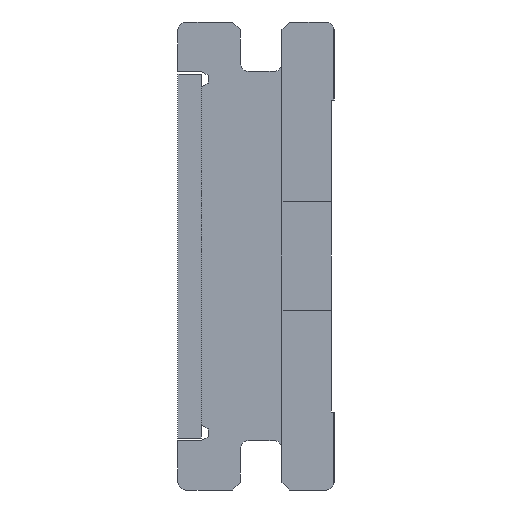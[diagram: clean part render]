
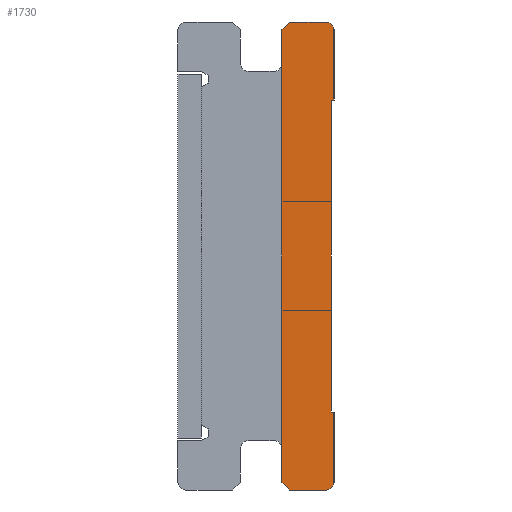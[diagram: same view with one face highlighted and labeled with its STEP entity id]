
A CAD part, left-side view. The second image highlights one B-rep face of the part: STEP entity #1730.
In plain terms, the highlighted planar face has unit normal (-1, 0, 0).
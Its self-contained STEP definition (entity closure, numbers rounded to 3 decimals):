
#30 = LINE ( 'NONE', #2296, #2185 ) ;
#54 = CARTESIAN_POINT ( 'NONE',  ( 0., 0.3, -0.3 ) ) ;
#80 = DIRECTION ( 'NONE',  ( 0., 0., -1. ) ) ;
#233 = DIRECTION ( 'NONE',  ( 0., -1., 0. ) ) ;
#237 = VECTOR ( 'NONE', #400, 1000. ) ;
#262 = DIRECTION ( 'NONE',  ( 0., 1., 0. ) ) ;
#268 = CARTESIAN_POINT ( 'NONE',  ( 0., 0.3, -17.7 ) ) ;
#278 = LINE ( 'NONE', #2367, #1663 ) ;
#342 = CARTESIAN_POINT ( 'NONE',  ( 0., 0.3, -18. ) ) ;
#370 = CARTESIAN_POINT ( 'NONE',  ( 0., 0., -15. ) ) ;
#380 = EDGE_CURVE ( 'NONE', #2245, #1203, #500, .T. ) ;
#400 = DIRECTION ( 'NONE',  ( 0., -1., 0. ) ) ;
#407 = VECTOR ( 'NONE', #233, 1000. ) ;
#454 = VECTOR ( 'NONE', #2191, 1000. ) ;
#459 = DIRECTION ( 'NONE',  ( 1., 0., 0. ) ) ;
#497 = LINE ( 'NONE', #2084, #1597 ) ;
#500 = LINE ( 'NONE', #2380, #2376 ) ;
#526 = CARTESIAN_POINT ( 'NONE',  ( 0., 0., -3. ) ) ;
#541 = CARTESIAN_POINT ( 'NONE',  ( 0., 0.1, -3. ) ) ;
#543 = DIRECTION ( 'NONE',  ( 0., 1., 0. ) ) ;
#548 = CARTESIAN_POINT ( 'NONE',  ( 0., 0., -15. ) ) ;
#601 = CARTESIAN_POINT ( 'NONE',  ( 0., 5.1, -15.8 ) ) ;
#669 = CARTESIAN_POINT ( 'NONE',  ( 0., 1.7, 0. ) ) ;
#674 = EDGE_CURVE ( 'NONE', #697, #956, #2047, .T. ) ;
#679 = ORIENTED_EDGE ( 'NONE', *, *, #1628, .F. ) ;
#694 = ORIENTED_EDGE ( 'NONE', *, *, #2004, .F. ) ;
#697 = VERTEX_POINT ( 'NONE', #370 ) ;
#750 = EDGE_CURVE ( 'NONE', #956, #908, #1552, .T. ) ;
#752 = FACE_OUTER_BOUND ( 'NONE', #2284, .T. ) ;
#782 = CARTESIAN_POINT ( 'NONE',  ( 0., 2., -17.7 ) ) ;
#811 = LINE ( 'NONE', #1576, #1492 ) ;
#908 = VERTEX_POINT ( 'NONE', #342 ) ;
#921 = CARTESIAN_POINT ( 'NONE',  ( 0., 1.7, -18. ) ) ;
#939 = AXIS2_PLACEMENT_3D ( 'NONE', #54, #2323, #1325 ) ;
#956 = VERTEX_POINT ( 'NONE', #1327 ) ;
#957 = LINE ( 'NONE', #2112, #407 ) ;
#972 = VERTEX_POINT ( 'NONE', #2082 ) ;
#1078 = CIRCLE ( 'NONE', #939, 0.3 ) ;
#1140 = CARTESIAN_POINT ( 'NONE',  ( 0., 0., -0.3 ) ) ;
#1203 = VERTEX_POINT ( 'NONE', #1239 ) ;
#1209 = AXIS2_PLACEMENT_3D ( 'NONE', #601, #2290, #1912 ) ;
#1220 = ORIENTED_EDGE ( 'NONE', *, *, #2119, .F. ) ;
#1234 = VERTEX_POINT ( 'NONE', #541 ) ;
#1239 = CARTESIAN_POINT ( 'NONE',  ( 0., 2., -0.3 ) ) ;
#1242 = EDGE_CURVE ( 'NONE', #1510, #2453, #2088, .T. ) ;
#1246 = DIRECTION ( 'NONE',  ( 0., 0.707, 0.707 ) ) ;
#1300 = DIRECTION ( 'NONE',  ( 0., 0., -1. ) ) ;
#1305 = DIRECTION ( 'NONE',  ( 0., 0., -1. ) ) ;
#1306 = VERTEX_POINT ( 'NONE', #1930 ) ;
#1325 = DIRECTION ( 'NONE',  ( 0., 0., 1. ) ) ;
#1327 = CARTESIAN_POINT ( 'NONE',  ( 0., 0., -17.7 ) ) ;
#1394 = VERTEX_POINT ( 'NONE', #2282 ) ;
#1450 = EDGE_CURVE ( 'NONE', #908, #1693, #30, .T. ) ;
#1460 = EDGE_CURVE ( 'NONE', #1306, #1394, #2110, .T. ) ;
#1492 = VECTOR ( 'NONE', #1797, 1000. ) ;
#1498 = VECTOR ( 'NONE', #1305, 1000. ) ;
#1510 = VERTEX_POINT ( 'NONE', #2351 ) ;
#1519 = CARTESIAN_POINT ( 'NONE',  ( 0., 0.3, 0. ) ) ;
#1532 = ORIENTED_EDGE ( 'NONE', *, *, #1242, .F. ) ;
#1545 = ORIENTED_EDGE ( 'NONE', *, *, #1460, .F. ) ;
#1552 = CIRCLE ( 'NONE', #1871, 0.3 ) ;
#1576 = CARTESIAN_POINT ( 'NONE',  ( 0., 0.1, -3. ) ) ;
#1597 = VECTOR ( 'NONE', #1246, 1000. ) ;
#1610 = LINE ( 'NONE', #669, #454 ) ;
#1628 = EDGE_CURVE ( 'NONE', #1234, #972, #811, .T. ) ;
#1663 = VECTOR ( 'NONE', #262, 1000. ) ;
#1693 = VERTEX_POINT ( 'NONE', #921 ) ;
#1708 = VECTOR ( 'NONE', #1300, 1000. ) ;
#1730 = ADVANCED_FACE ( 'NONE', ( #752 ), #2105, .F. ) ;
#1797 = DIRECTION ( 'NONE',  ( 0., 0., -1. ) ) ;
#1840 = ORIENTED_EDGE ( 'NONE', *, *, #2375, .F. ) ;
#1871 = AXIS2_PLACEMENT_3D ( 'NONE', #268, #459, #80 ) ;
#1885 = ORIENTED_EDGE ( 'NONE', *, *, #380, .F. ) ;
#1912 = DIRECTION ( 'NONE',  ( 0., 1., 0. ) ) ;
#1930 = CARTESIAN_POINT ( 'NONE',  ( 0., 1.7, 0. ) ) ;
#1938 = EDGE_CURVE ( 'NONE', #1693, #2245, #497, .T. ) ;
#2004 = EDGE_CURVE ( 'NONE', #972, #697, #957, .T. ) ;
#2047 = LINE ( 'NONE', #548, #1708 ) ;
#2048 = ORIENTED_EDGE ( 'NONE', *, *, #1450, .F. ) ;
#2058 = ORIENTED_EDGE ( 'NONE', *, *, #750, .F. ) ;
#2082 = CARTESIAN_POINT ( 'NONE',  ( 0., 0.1, -15. ) ) ;
#2084 = CARTESIAN_POINT ( 'NONE',  ( 0., 1.7, -18. ) ) ;
#2088 = LINE ( 'NONE', #1140, #1498 ) ;
#2105 = PLANE ( 'NONE',  #1209 ) ;
#2110 = LINE ( 'NONE', #1519, #237 ) ;
#2112 = CARTESIAN_POINT ( 'NONE',  ( 0., 0., -15. ) ) ;
#2119 = EDGE_CURVE ( 'NONE', #1203, #1306, #1610, .T. ) ;
#2162 = ORIENTED_EDGE ( 'NONE', *, *, #2294, .F. ) ;
#2185 = VECTOR ( 'NONE', #543, 1000. ) ;
#2191 = DIRECTION ( 'NONE',  ( 0., -0.707, 0.707 ) ) ;
#2245 = VERTEX_POINT ( 'NONE', #782 ) ;
#2282 = CARTESIAN_POINT ( 'NONE',  ( 0., 0.3, 0. ) ) ;
#2284 = EDGE_LOOP ( 'NONE', ( #1220, #1885, #2370, #2048, #2058, #2327, #694, #679, #1840, #1532, #2162, #1545 ) ) ;
#2290 = DIRECTION ( 'NONE',  ( 1., 0., 0. ) ) ;
#2294 = EDGE_CURVE ( 'NONE', #1394, #1510, #1078, .T. ) ;
#2296 = CARTESIAN_POINT ( 'NONE',  ( 0., 0.3, -18. ) ) ;
#2323 = DIRECTION ( 'NONE',  ( 1., 0., 0. ) ) ;
#2327 = ORIENTED_EDGE ( 'NONE', *, *, #674, .F. ) ;
#2351 = CARTESIAN_POINT ( 'NONE',  ( 0., 0., -0.3 ) ) ;
#2367 = CARTESIAN_POINT ( 'NONE',  ( 0., 0., -3. ) ) ;
#2370 = ORIENTED_EDGE ( 'NONE', *, *, #1938, .F. ) ;
#2375 = EDGE_CURVE ( 'NONE', #2453, #1234, #278, .T. ) ;
#2376 = VECTOR ( 'NONE', #2430, 1000. ) ;
#2380 = CARTESIAN_POINT ( 'NONE',  ( 0., 2., -17.7 ) ) ;
#2430 = DIRECTION ( 'NONE',  ( 0., 0., 1. ) ) ;
#2453 = VERTEX_POINT ( 'NONE', #526 ) ;
